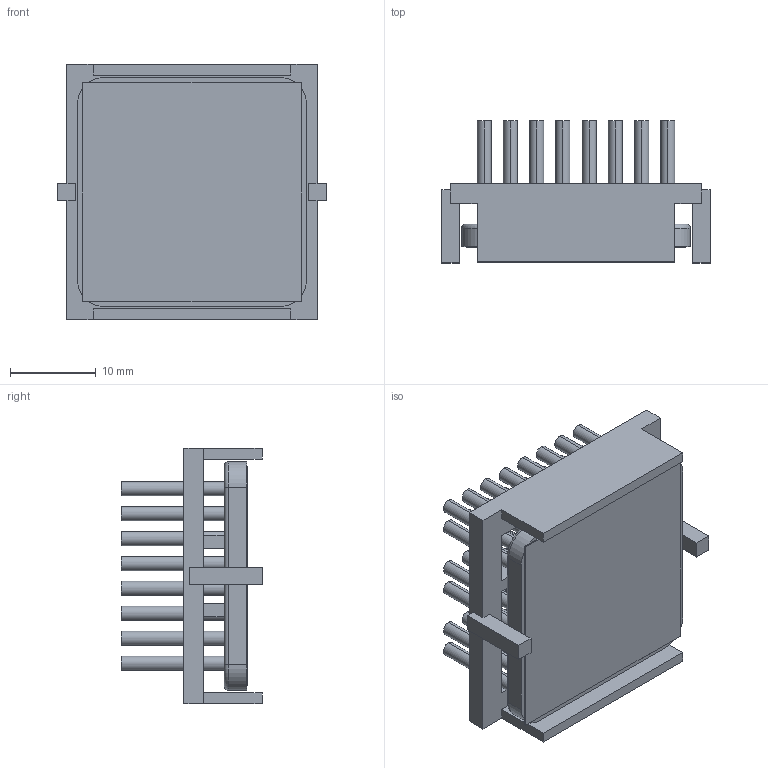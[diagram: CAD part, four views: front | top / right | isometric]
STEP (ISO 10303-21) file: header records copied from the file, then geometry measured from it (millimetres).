
FILE_DESCRIPTION (( 'STEP AP214' ), '1' );
FILE_NAME ('INM27002-15PCU-2.6BU.STEP', '2023-03-02T23:44:05', ( '' ), ( '' ), 'SwSTEP 2.0', 'SolidWorks 2020', '' );
FILE_SCHEMA (( 'AUTOMOTIVE_DESIGN' ));
Length unit declared in the file: inch
Products named in the file (1): INM27002-15PCU-2.6BU
Bounding box: 31.2 x 16.5 x 29.7 mm (x, y, z)
Volume: 4687.3 mm3; surface area: 8623.4 mm2
Topology: 3 solids, 3 shells, 246 faces, 544 edges, 360 vertices
Faces by surface type: plane 122, cylinder 120, torus 4
Entity records: 10132 total; most frequent: DIRECTION 1282, CARTESIAN_POINT 1151, ORIENTED_EDGE 1088, EDGE_CURVE 544, AXIS2_PLACEMENT_3D 491, VERTEX_POINT 360, EDGE_LOOP 304, LINE 300
